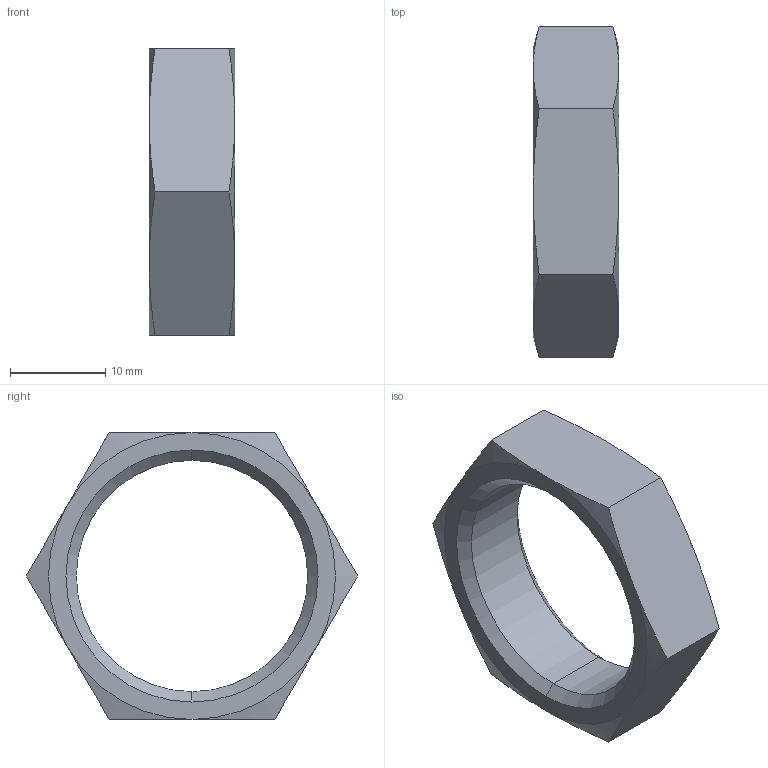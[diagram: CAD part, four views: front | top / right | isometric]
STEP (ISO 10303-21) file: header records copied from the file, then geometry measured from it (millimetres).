
FILE_DESCRIPTION (( 'STEP AP203' ), '1' );
FILE_NAME ('DNN12 SS.STEP', '2009-09-08T08:22:53', ( ' ' ), ( '' ), 'SwSTEP 2.0', 'SolidWorks 2008', '' );
FILE_SCHEMA (( 'CONFIG_CONTROL_DESIGN' ));
Length unit declared in the file: millimetre
Products named in the file (1): DNN12 SS
Bounding box: 9 x 34.83 x 30.16 mm (x, y, z)
Volume: 2791 mm3; surface area: 2140.4 mm2
Topology: 1 solids, 1 shells, 26 faces, 56 edges, 32 vertices
Faces by surface type: cone 16, plane 8, cylinder 2
Entity records: 845 total; most frequent: CARTESIAN_POINT 235, ORIENTED_EDGE 112, DIRECTION 106, EDGE_CURVE 56, AXIS2_PLACEMENT_3D 47, VERTEX_POINT 32, EDGE_LOOP 28, FACE_OUTER_BOUND 26
